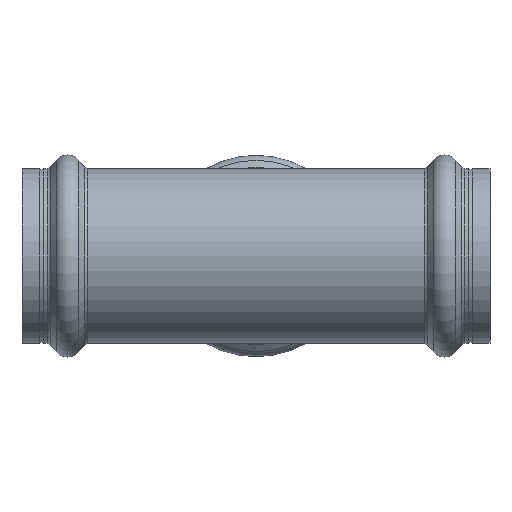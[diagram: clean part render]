
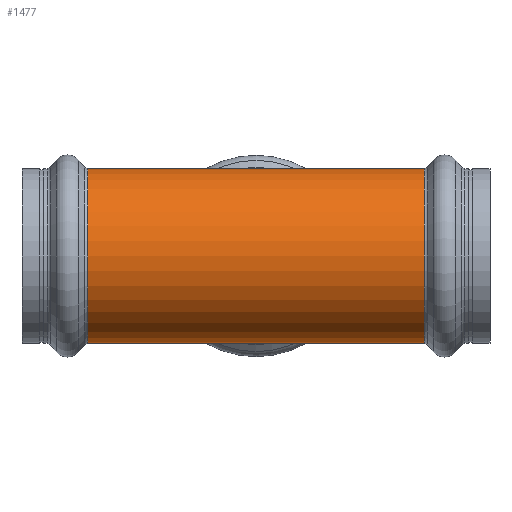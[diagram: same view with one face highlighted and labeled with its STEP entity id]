
A CAD part, front view. The second image highlights one B-rep face of the part: STEP entity #1477.
In plain terms, the highlighted cylindrical face has radius 19.25 mm (diameter 38.5 mm), a partial arc.
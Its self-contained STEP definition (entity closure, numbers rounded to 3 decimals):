
#80 = AXIS2_PLACEMENT_3D ( 'NONE', #218, #2981, #628 ) ;
#135 = EDGE_CURVE ( 'NONE', #2792, #1394, #2756, .T. ) ;
#177 = LINE ( 'NONE', #436, #2297 ) ;
#185 = CARTESIAN_POINT ( 'NONE',  ( -58.611, 0., 0. ) ) ;
#218 = CARTESIAN_POINT ( 'NONE',  ( 37.036, 0., 0. ) ) ;
#416 = VERTEX_POINT ( 'NONE', #2498 ) ;
#436 = CARTESIAN_POINT ( 'NONE',  ( -58.611, 0., 19.25 ) ) ;
#524 = AXIS2_PLACEMENT_3D ( 'NONE', #3814, #1035, #3412 ) ;
#578 = CARTESIAN_POINT ( 'NONE',  ( 37.036, 0., -19.25 ) ) ;
#628 = DIRECTION ( 'NONE',  ( 0., 0., 1. ) ) ;
#631 = ORIENTED_EDGE ( 'NONE', *, *, #4537, .T. ) ;
#920 = CARTESIAN_POINT ( 'NONE',  ( -58.611, 0., -19.25 ) ) ;
#1035 = DIRECTION ( 'NONE',  ( 1., 0., 0. ) ) ;
#1201 = DIRECTION ( 'NONE',  ( -1., 0., 0. ) ) ;
#1394 = VERTEX_POINT ( 'NONE', #4853 ) ;
#1477 = ADVANCED_FACE ( 'NONE', ( #3677 ), #3553, .T. ) ;
#1993 = EDGE_CURVE ( 'NONE', #3073, #1394, #4296, .T. ) ;
#2034 = ORIENTED_EDGE ( 'NONE', *, *, #135, .T. ) ;
#2182 = DIRECTION ( 'NONE',  ( -1., 0., 0. ) ) ;
#2297 = VECTOR ( 'NONE', #1201, 1000. ) ;
#2498 = CARTESIAN_POINT ( 'NONE',  ( 37.036, 0., 19.25 ) ) ;
#2509 = DIRECTION ( 'NONE',  ( -1., 0., 0. ) ) ;
#2549 = DIRECTION ( 'NONE',  ( 0., 0., 1. ) ) ;
#2646 = ORIENTED_EDGE ( 'NONE', *, *, #3494, .T. ) ;
#2756 = CIRCLE ( 'NONE', #524, 19.25 ) ;
#2792 = VERTEX_POINT ( 'NONE', #3181 ) ;
#2946 = EDGE_LOOP ( 'NONE', ( #4740, #2646, #631, #2034 ) ) ;
#2981 = DIRECTION ( 'NONE',  ( -1., 0., 0. ) ) ;
#3073 = VERTEX_POINT ( 'NONE', #578 ) ;
#3181 = CARTESIAN_POINT ( 'NONE',  ( -37.036, 0., 19.25 ) ) ;
#3233 = VECTOR ( 'NONE', #2509, 1000. ) ;
#3272 = AXIS2_PLACEMENT_3D ( 'NONE', #185, #2182, #2549 ) ;
#3412 = DIRECTION ( 'NONE',  ( 0., 0., -1. ) ) ;
#3494 = EDGE_CURVE ( 'NONE', #3073, #416, #4142, .T. ) ;
#3553 = CYLINDRICAL_SURFACE ( 'NONE', #3272, 19.25 ) ;
#3677 = FACE_OUTER_BOUND ( 'NONE', #2946, .T. ) ;
#3814 = CARTESIAN_POINT ( 'NONE',  ( -37.036, 0., 0. ) ) ;
#4142 = CIRCLE ( 'NONE', #80, 19.25 ) ;
#4296 = LINE ( 'NONE', #920, #3233 ) ;
#4537 = EDGE_CURVE ( 'NONE', #416, #2792, #177, .T. ) ;
#4740 = ORIENTED_EDGE ( 'NONE', *, *, #1993, .F. ) ;
#4853 = CARTESIAN_POINT ( 'NONE',  ( -37.036, 0., -19.25 ) ) ;
